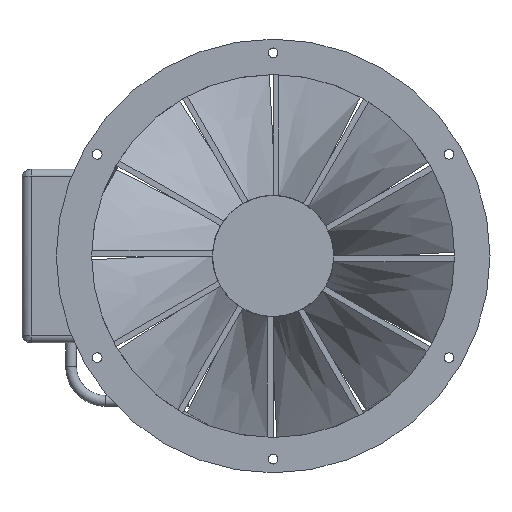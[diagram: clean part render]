
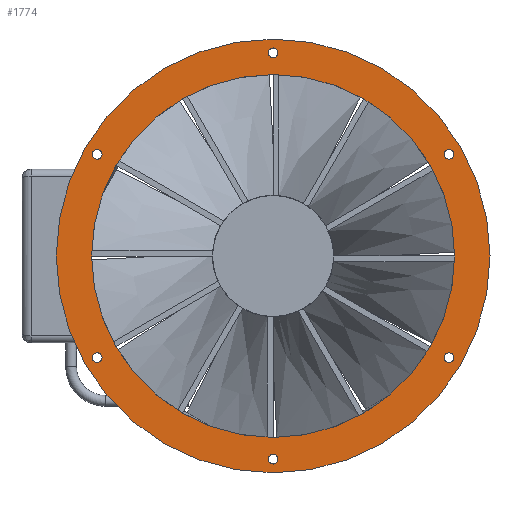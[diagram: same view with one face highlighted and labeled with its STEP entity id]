
A CAD part, left-side view. The second image highlights one B-rep face of the part: STEP entity #1774.
In plain terms, the highlighted planar face has unit normal (-1, 0, 0).
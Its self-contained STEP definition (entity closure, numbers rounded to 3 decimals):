
#276=PLANE('',#1923);
#338=FACE_BOUND('',#668,.T.);
#339=FACE_BOUND('',#669,.T.);
#340=FACE_BOUND('',#670,.T.);
#341=FACE_BOUND('',#671,.T.);
#342=FACE_BOUND('',#672,.T.);
#343=FACE_BOUND('',#673,.T.);
#344=FACE_BOUND('',#674,.T.);
#503=FACE_OUTER_BOUND('',#667,.T.);
#667=EDGE_LOOP('',(#1582));
#668=EDGE_LOOP('',(#1583));
#669=EDGE_LOOP('',(#1584));
#670=EDGE_LOOP('',(#1585));
#671=EDGE_LOOP('',(#1586));
#672=EDGE_LOOP('',(#1587));
#673=EDGE_LOOP('',(#1588));
#674=EDGE_LOOP('',(#1589));
#706=CIRCLE('',#1844,4.25);
#708=CIRCLE('',#1847,4.25);
#710=CIRCLE('',#1850,4.25);
#712=CIRCLE('',#1853,4.25);
#714=CIRCLE('',#1856,4.25);
#716=CIRCLE('',#1859,4.25);
#741=CIRCLE('',#1909,190.);
#748=CIRCLE('',#1922,159.);
#803=VERTEX_POINT('',#2754);
#805=VERTEX_POINT('',#2759);
#807=VERTEX_POINT('',#2764);
#809=VERTEX_POINT('',#2769);
#811=VERTEX_POINT('',#2774);
#813=VERTEX_POINT('',#2779);
#910=VERTEX_POINT('',#3952);
#917=VERTEX_POINT('',#3972);
#976=EDGE_CURVE('',#803,#803,#706,.T.);
#978=EDGE_CURVE('',#805,#805,#708,.T.);
#980=EDGE_CURVE('',#807,#807,#710,.T.);
#982=EDGE_CURVE('',#809,#809,#712,.T.);
#984=EDGE_CURVE('',#811,#811,#714,.T.);
#986=EDGE_CURVE('',#813,#813,#716,.T.);
#1131=EDGE_CURVE('',#910,#910,#741,.T.);
#1138=EDGE_CURVE('',#917,#917,#748,.T.);
#1582=ORIENTED_EDGE('',*,*,#1131,.F.);
#1583=ORIENTED_EDGE('',*,*,#976,.T.);
#1584=ORIENTED_EDGE('',*,*,#978,.T.);
#1585=ORIENTED_EDGE('',*,*,#980,.T.);
#1586=ORIENTED_EDGE('',*,*,#982,.T.);
#1587=ORIENTED_EDGE('',*,*,#984,.T.);
#1588=ORIENTED_EDGE('',*,*,#986,.T.);
#1589=ORIENTED_EDGE('',*,*,#1138,.T.);
#1774=ADVANCED_FACE('',(#503,#338,#339,#340,#341,#342,#343,#344),#276,.T.);
#1844=AXIS2_PLACEMENT_3D('',#2755,#2076,#2077);
#1847=AXIS2_PLACEMENT_3D('',#2760,#2082,#2083);
#1850=AXIS2_PLACEMENT_3D('',#2765,#2088,#2089);
#1853=AXIS2_PLACEMENT_3D('',#2770,#2094,#2095);
#1856=AXIS2_PLACEMENT_3D('',#2775,#2100,#2101);
#1859=AXIS2_PLACEMENT_3D('',#2780,#2106,#2107);
#1909=AXIS2_PLACEMENT_3D('',#3953,#2278,#2279);
#1922=AXIS2_PLACEMENT_3D('',#3973,#2304,#2305);
#1923=AXIS2_PLACEMENT_3D('',#3974,#2306,#2307);
#2076=DIRECTION('center_axis',(1.,0.,0.));
#2077=DIRECTION('ref_axis',(0.,-0.866,-0.5));
#2082=DIRECTION('center_axis',(1.,0.,0.));
#2083=DIRECTION('ref_axis',(0.,-0.866,0.5));
#2088=DIRECTION('center_axis',(1.,0.,0.));
#2089=DIRECTION('ref_axis',(0.,0.,1.));
#2094=DIRECTION('center_axis',(1.,0.,0.));
#2095=DIRECTION('ref_axis',(0.,0.866,0.5));
#2100=DIRECTION('center_axis',(1.,0.,0.));
#2101=DIRECTION('ref_axis',(0.,0.866,-0.5));
#2106=DIRECTION('center_axis',(1.,0.,0.));
#2107=DIRECTION('ref_axis',(0.,0.,-1.));
#2278=DIRECTION('center_axis',(1.,0.,0.));
#2279=DIRECTION('ref_axis',(0.,0.,-1.));
#2304=DIRECTION('center_axis',(1.,0.,0.));
#2305=DIRECTION('ref_axis',(0.,0.,-1.));
#2306=DIRECTION('center_axis',(-1.,0.,0.));
#2307=DIRECTION('ref_axis',(0.,0.,1.));
#2754=CARTESIAN_POINT('',(0.,157.833,91.125));
#2755=CARTESIAN_POINT('Origin',(0.,154.153,89.));
#2759=CARTESIAN_POINT('',(0.,157.833,-91.125));
#2760=CARTESIAN_POINT('Origin',(0.,154.153,-89.));
#2764=CARTESIAN_POINT('',(0.,0.,-182.25));
#2765=CARTESIAN_POINT('Origin',(0.,0.,-178.));
#2769=CARTESIAN_POINT('',(0.,-157.833,-91.125));
#2770=CARTESIAN_POINT('Origin',(0.,-154.153,-89.));
#2774=CARTESIAN_POINT('',(0.,-157.833,91.125));
#2775=CARTESIAN_POINT('Origin',(0.,-154.153,89.));
#2779=CARTESIAN_POINT('',(0.,0.,182.25));
#2780=CARTESIAN_POINT('Origin',(0.,0.,178.));
#3952=CARTESIAN_POINT('',(0.,190.,0.));
#3953=CARTESIAN_POINT('Origin',(0.,0.,0.));
#3972=CARTESIAN_POINT('',(0.,159.,0.));
#3973=CARTESIAN_POINT('Origin',(0.,0.,0.));
#3974=CARTESIAN_POINT('Origin',(0.,190.,0.));
